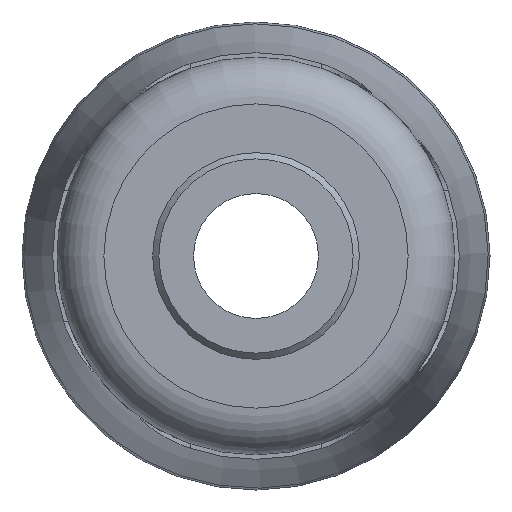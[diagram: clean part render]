
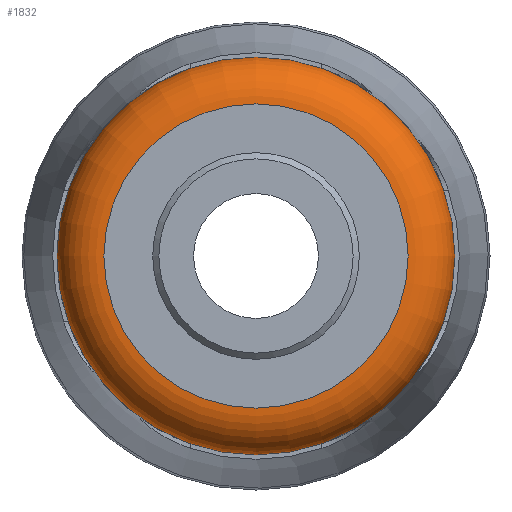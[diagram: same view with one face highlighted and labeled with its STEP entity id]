
A CAD part, left-side view. The second image highlights one B-rep face of the part: STEP entity #1832.
In plain terms, the highlighted toroidal (fillet/blend) face has major radius 33.475 mm and minor radius 10.3 mm.
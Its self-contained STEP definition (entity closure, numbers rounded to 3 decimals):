
#16=TOROIDAL_SURFACE('',#2004,33.475,10.3);
#385=FACE_BOUND('',#546,.T.);
#428=FACE_OUTER_BOUND('',#545,.T.);
#545=EDGE_LOOP('',(#1363));
#546=EDGE_LOOP('',(#1364));
#669=CIRCLE('',#1982,43.775);
#682=CIRCLE('',#2005,33.475);
#795=VERTEX_POINT('',#3090);
#807=VERTEX_POINT('',#3175);
#989=EDGE_CURVE('',#795,#795,#669,.T.);
#1008=EDGE_CURVE('',#807,#807,#682,.T.);
#1363=ORIENTED_EDGE('',*,*,#1008,.T.);
#1364=ORIENTED_EDGE('',*,*,#989,.T.);
#1832=ADVANCED_FACE('',(#428,#385),#16,.T.);
#1982=AXIS2_PLACEMENT_3D('',#3091,#2289,#2290);
#2004=AXIS2_PLACEMENT_3D('',#3174,#2335,#2336);
#2005=AXIS2_PLACEMENT_3D('',#3176,#2337,#2338);
#2289=DIRECTION('center_axis',(-1.,0.,0.));
#2290=DIRECTION('ref_axis',(0.,-1.,0.));
#2335=DIRECTION('center_axis',(1.,0.,0.));
#2336=DIRECTION('ref_axis',(0.,0.,-1.));
#2337=DIRECTION('center_axis',(1.,0.,0.));
#2338=DIRECTION('ref_axis',(0.,-1.,0.));
#3090=CARTESIAN_POINT('',(29.3,43.775,0.));
#3091=CARTESIAN_POINT('Origin',(29.3,0.,0.));
#3174=CARTESIAN_POINT('Origin',(29.3,0.,0.));
#3175=CARTESIAN_POINT('',(19.,33.475,0.));
#3176=CARTESIAN_POINT('Origin',(19.,0.,0.));
